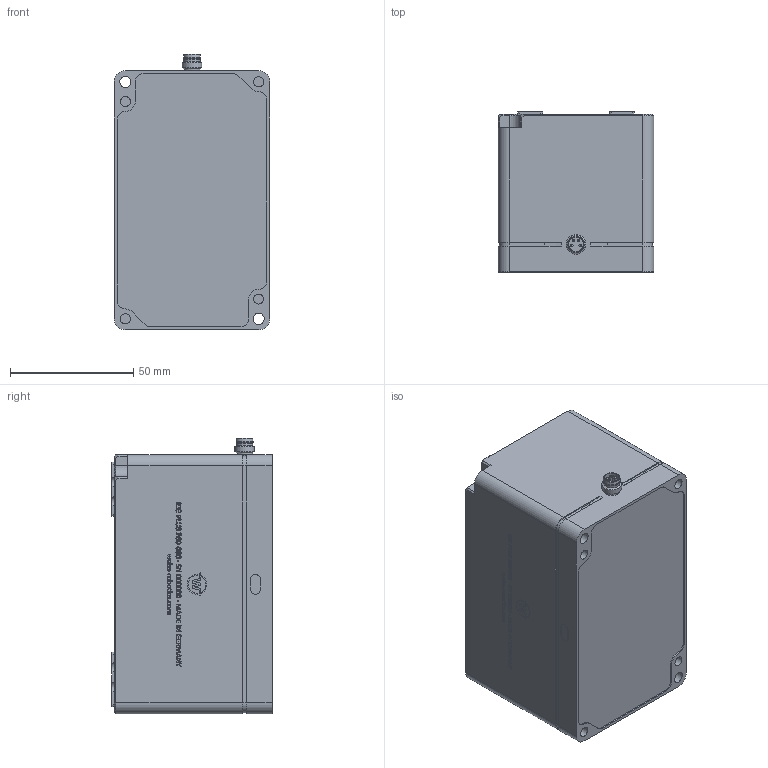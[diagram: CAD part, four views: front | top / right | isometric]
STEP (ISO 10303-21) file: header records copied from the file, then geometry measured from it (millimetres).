
FILE_DESCRIPTION(/* description */ (''),/* implementation_level */ '2;1');
FILE_NAME(/* name */ 'D:\ieg\Mechanik\IEG PLUS 260-080\Konturvereinfachung\IEG PLUS 260-080 Customer.stp',/* time_stamp */ '2024-05-07T13:34:04+02:00',/* author */ ('Karsten Weiß'),/* organization */ (''),/* preprocessor_version */ 'ST-DEVELOPER v17',/* originating_system */ 'Autodesk Inventor 2018',/* authorisation */ '');
FILE_SCHEMA (('AUTOMOTIVE_DESIGN { 1 0 10303 214 3 1 1 }'));
Length unit declared in the file: millimetre
Products named in the file (3): IEG PLUS 200-030 Customer; IEG PLUS 260-080 Body; IEG PLUS 260-080 base jaw
Assembly tree (3 placements, depth 2):
  IEG PLUS 200-030 Customer
    IEG PLUS 260-080 Body
    IEG PLUS 260-080 base jaw  x2
Bounding box: 63 x 65 x 111.75 mm (x, y, z)
Volume: 406612.7 mm3; surface area: 42763.9 mm2
Topology: 8 solids, 8 shells, 1013 faces, 2715 edges, 1815 vertices
Faces by surface type: bspline 500, plane 409, cylinder 91, cone 8, sphere 4, torus 1
Full cylindrical faces by diameter (mm): 1 x4, 4 x4, 4.006 x2, 4.134 x2, 4.5 x2, 5.8 x1, 6 x4, 6.5 x2, 6.9 x1, 8 x1
Entity records: 41598 total; most frequent: CARTESIAN_POINT 20142, ORIENTED_EDGE 5242, DIRECTION 2779, EDGE_CURVE 2621, VERTEX_POINT 1753, LINE 1431, VECTOR 1431, EDGE_LOOP 1078
